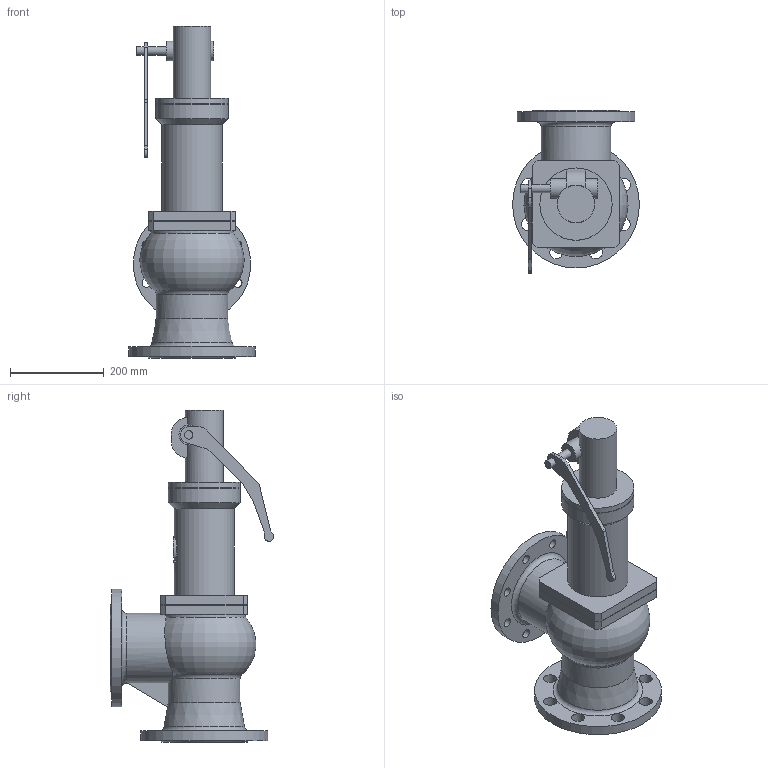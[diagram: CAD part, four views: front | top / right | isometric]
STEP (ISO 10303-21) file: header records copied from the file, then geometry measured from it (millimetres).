
FILE_DESCRIPTION(('STEP AP203'), '1');
FILE_NAME('Êëàïàí ïðåäîõðàíèòåëüíûé ñðåäíåïîäüåìíûé SV1F 125x125', '', ('UNSPECIFIED'), ('UNSPECIFIED'), 'ASCON STEP Converter 1.6', 'ASCON Math Kernel', '');
FILE_SCHEMA(('CONFIG_CONTROL_DESIGN'));
Length unit declared in the file: millimetre
Bounding box: 270 x 347.87 x 707 mm (x, y, z)
Volume: 9358659.7 mm3; surface area: 972607.9 mm2
Topology: 1 solids, 3 shells, 139 faces, 347 edges, 230 vertices
Faces by surface type: plane 74, cylinder 55, torus 6, cone 4
Full cylindrical faces by diameter (mm): 18 x2, 19 x8, 28 x8, 42 x2, 60 x1, 80 x1, 98 x2, 125 x2, 128 x1, 134 x1, 149 x1, 154 x2, 163 x1, 250 x1, 270 x1
Entity records: 6888 total; most frequent: CARTESIAN_POINT 2491, DIRECTION 662, ORIENTED_EDGE 604, EDGE_CURVE 302, AXIS2_PLACEMENT_3D 263, EDGE_LOOP 232, VERTEX_POINT 230, FACE_BOUND 157
